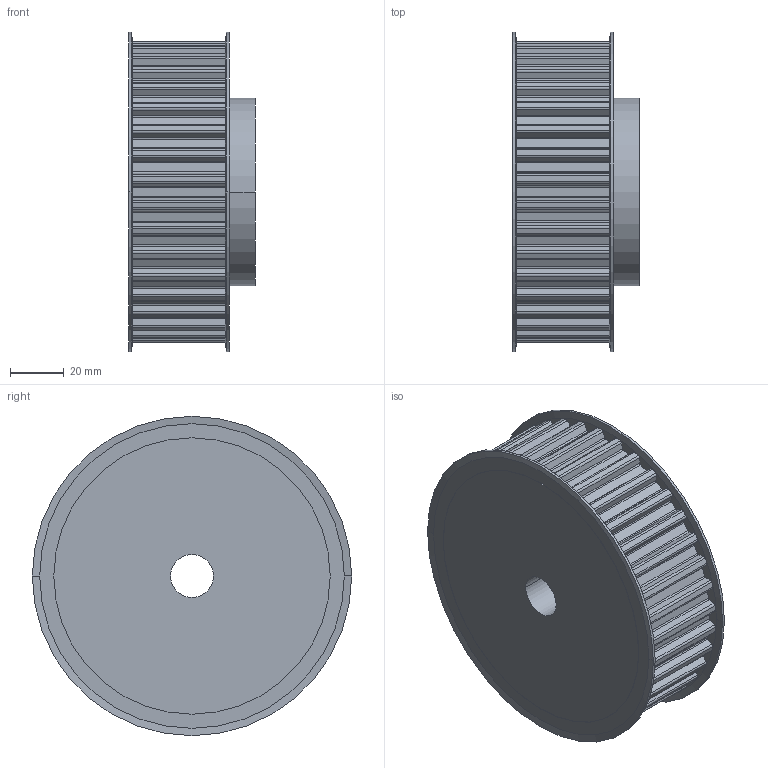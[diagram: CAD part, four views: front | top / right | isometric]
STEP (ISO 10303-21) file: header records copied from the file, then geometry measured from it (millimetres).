
FILE_DESCRIPTION( ( '' ), '1' );
FILE_NAME( 'C:/Users/Stangenbergd/Documents/CAD_Step/1/16443600.stp', '2021-10-19T08:57:45', ( '' ), ( '' ), ' ', ' ', ' ' );
FILE_SCHEMA( ( 'CONFIG_CONTROL_DESIGN' ) );
Length unit declared in the file: millimetre
Products named in the file (1): 1
Bounding box: 47.24 x 119 x 119 mm (x, y, z)
Volume: 377346.3 mm3; surface area: 48255.4 mm2
Topology: 1 solids, 1 shells, 315 faces, 916 edges, 608 vertices
Faces by surface type: cylinder 192, plane 115, cone 8
Entity records: 10606 total; most frequent: DIRECTION 1940, CARTESIAN_POINT 1840, ORIENTED_EDGE 1832, EDGE_CURVE 916, AXIS2_PLACEMENT_3D 708, VERTEX_POINT 608, LINE 524, VECTOR 524
